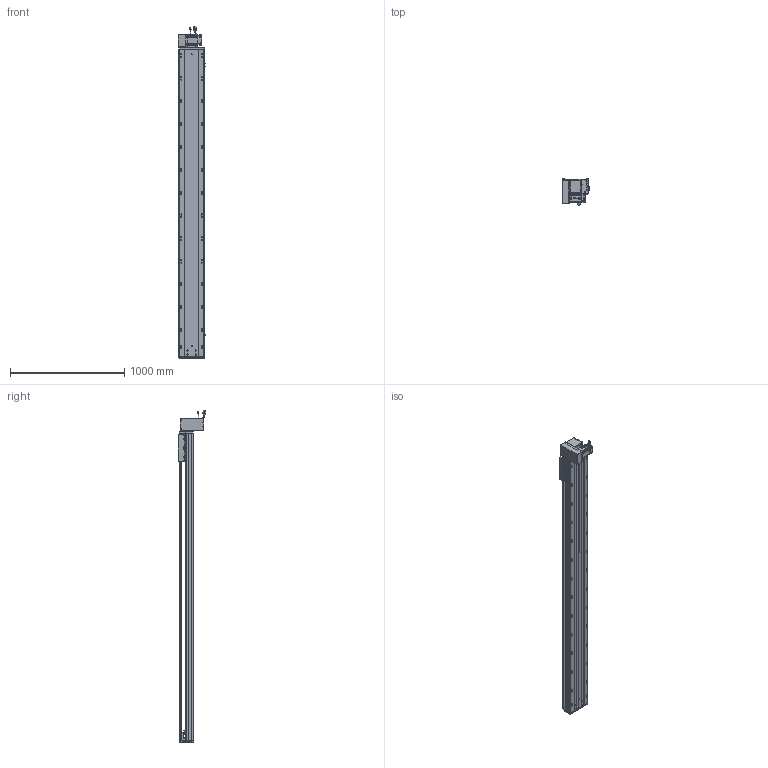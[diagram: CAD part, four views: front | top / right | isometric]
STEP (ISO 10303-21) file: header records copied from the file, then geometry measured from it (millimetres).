
FILE_DESCRIPTION (( 'STEP AP203' ), '1' );
FILE_NAME ('RY220-T-300-DL.SLDASM_2350.step', '2022-07-25T07:54:35', ( '' ), ( '' ), 'SwSTEP 2.0', 'SolidWorks 2016', '' );
FILE_SCHEMA (( 'CONFIG_CONTROL_DESIGN' ));
Length unit declared in the file: millimetre
Products named in the file (14): RY220-T菁釱-300_2350; RY220-T-蛌殏萇儂假蚾啣(750W); 110A-T-肮祭謫釱傷裔; RY220翋肮祭謫裔啣; 覜茼ん672; 怢湛750W_ECMA-CX0807ES; RY220-俋离672覜茼んえ; RY220圉猾敕々湍臏賑輸; RY220-T-300-DL.SLDASM_2350; RY220-T-300-奻裔啣_2350; RY220-T-湍謫欶(鍼踢); RY220翋肮祭謫釱; RY220-同步轮副支撑座6304×2; 滅袉蝶18-15
Assembly tree (18 placements, depth 2):
  RY220-T-300-DL.SLDASM_2350
    RY220-T菁釱-300_2350
    RY220翋肮祭謫釱
    覜茼ん672  x3
    RY220圉猾敕々湍臏賑輸
    RY220-T-300-奻裔啣_2350
    RY220-俋离672覜茼んえ
    滅袉蝶18-15  x3
    RY220翋肮祭謫裔啣  x2
    110A-T-肮祭謫釱傷裔
    怢湛750W_ECMA-CX0807ES
    RY220-T-湍謫欶(鍼踢)
    RY220-T-蛌殏萇儂假蚾啣(750W)
    RY220-同步轮副支撑座6304×2
Bounding box: 239.7 x 240.74 x 2903.27 mm (x, y, z)
Volume: 20997117.7 mm3; surface area: 6427906.3 mm2
Topology: 19 solids, 19 shells, 2898 faces, 8011 edges, 5034 vertices
Faces by surface type: cylinder 1410, plane 1069, cone 337, bspline 56, sphere 16, torus 10
Entity records: 96579 total; most frequent: CARTESIAN_POINT 27323, ORIENTED_EDGE 14330, DIRECTION 13760, EDGE_CURVE 7165, AXIS2_PLACEMENT_3D 4940, VERTEX_POINT 4658, VECTOR 3880, LINE 3880
